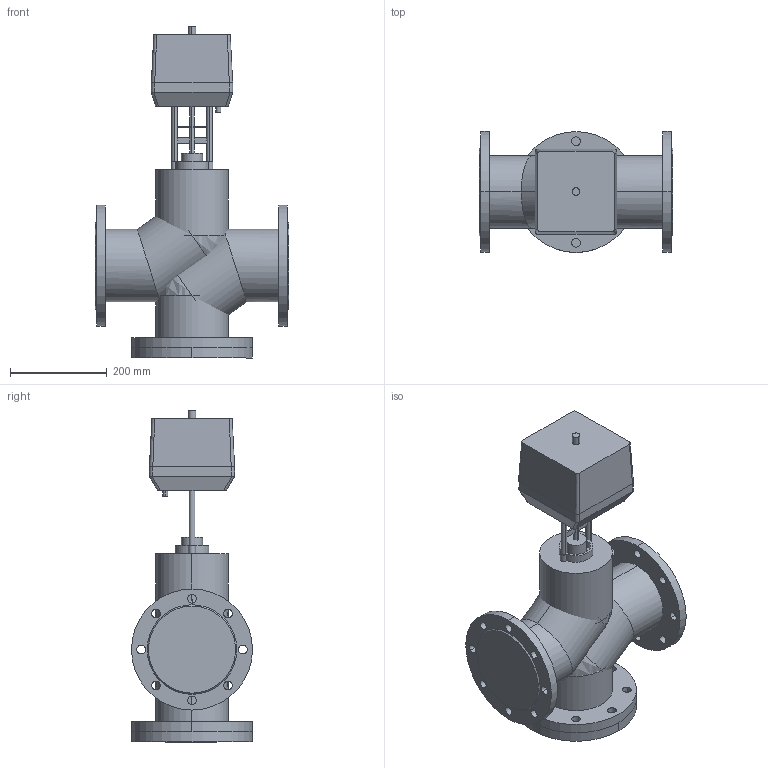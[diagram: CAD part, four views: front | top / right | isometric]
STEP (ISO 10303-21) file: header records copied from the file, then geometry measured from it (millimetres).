
FILE_DESCRIPTION(/* description */ (''),/* implementation_level */ '2;1');
FILE_NAME(/* name */ 'ТРК DN125 PN 1.6 МПа VTM-i 5000H',/* time_stamp */ '2026-07-14T23:21:18+03:00',/* author */ (''),/* organization */ (''),/* preprocessor_version */ 'ST-DEVELOPER v20',/* originating_system */ '',/* authorisation */ '');
FILE_SCHEMA (('AP242_MANAGED_MODEL_BASED_3D_ENGINEERING_MIM_LF { 1 0 10303 442 1 1 4 }'));
Length unit declared in the file: millimetre
Products named in the file (14): TopLevelAssembly; Выдавливание; Модификатор; Модификатор_1; Выдавливание_
1; Выдавливание_
2; Вращение; Выдавливание_
3; Выдавливание_
4; 1600; Переход; Объемная геометрия 
присоединена; Полый Выдавливание; Объемная геометрия 
присоединена_1
Assembly tree (13 placements, depth 2):
  TopLevelAssembly
    Выдавливание
    Модификатор
    Модификатор_1
    Выдавливание_
1
    Выдавливание_
2
    Вращение
    Выдавливание_
3
    Выдавливание_
4
    1600
    Переход
    Объемная геометрия 
присоединена
    Полый Выдавливание
    Объемная геометрия 
присоединена_1
Bounding box: 400 x 250 x 686 mm (x, y, z)
Volume: 21875509.7 mm3; surface area: 1372519 mm2
Topology: 21 solids, 21 shells, 188 faces, 432 edges, 284 vertices
Faces by surface type: cylinder 98, plane 74, bspline 12, cone 4
Entity records: 6181 total; most frequent: CARTESIAN_POINT 1203, DIRECTION 1062, ORIENTED_EDGE 848, AXIS2_PLACEMENT_3D 435, EDGE_CURVE 424, VERTEX_POINT 284, EDGE_LOOP 248, CIRCLE 224
